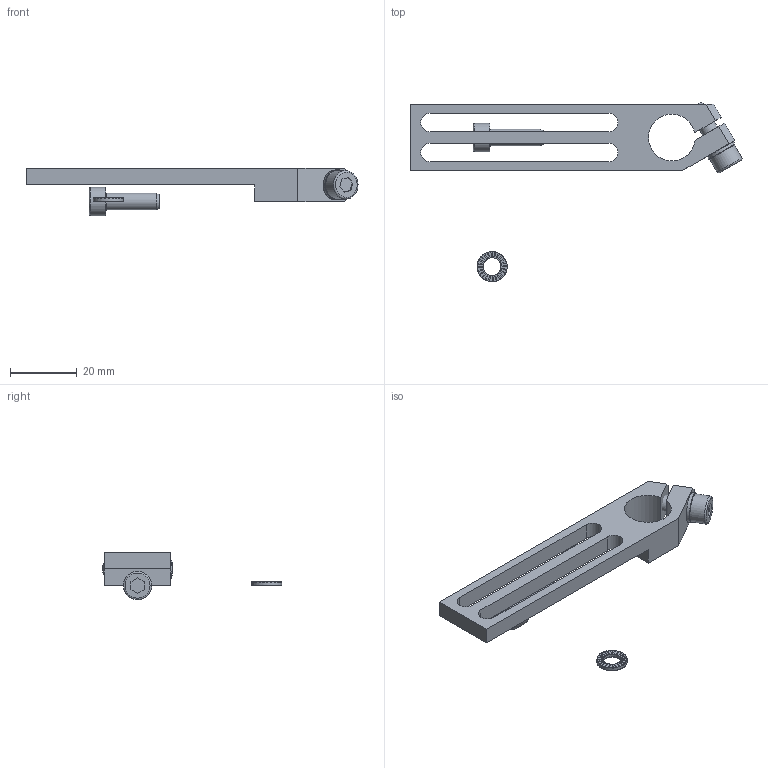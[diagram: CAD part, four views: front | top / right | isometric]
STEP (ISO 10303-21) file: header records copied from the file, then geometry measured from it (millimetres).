
FILE_DESCRIPTION( ( 'STEP AP214' ), '1' );
FILE_NAME( 'C:/Users/Segreteria/Desktop/CA.WSL.1450.U.stp', '2014-07-10T09:49:07', ( ' ' ), ( ' ' ), 'XStep 1.0', ' ', ' ' );
FILE_SCHEMA( ( 'CONFIG_CONTROL_DESIGN) ( )' ) );
Length unit declared in the file: metre
Products named in the file (4): Assem1; WSL.1450.U; R.5.SCH; V-tcei M  5 x 16
Bounding box: 99.41 x 53.69 x 14.25 mm (x, y, z)
Volume: 13832.9 mm3; surface area: 12320 mm2
Topology: 4 solids, 6 shells, 472 faces, 1376 edges, 914 vertices
Faces by surface type: plane 444, cylinder 22, torus 4, cone 2
Full cylindrical faces by diameter (mm): 4.134 x2, 5 x2, 5.3 x2, 5.5 x2, 8.5 x2, 9 x2
Entity records: 9400 total; most frequent: CARTESIAN_POINT 1367, DIRECTION 1367, ORIENTED_EDGE 1348, EDGE_CURVE 674, LINE 461, VECTOR 461, AXIS2_PLACEMENT_3D 453, VERTEX_POINT 453
